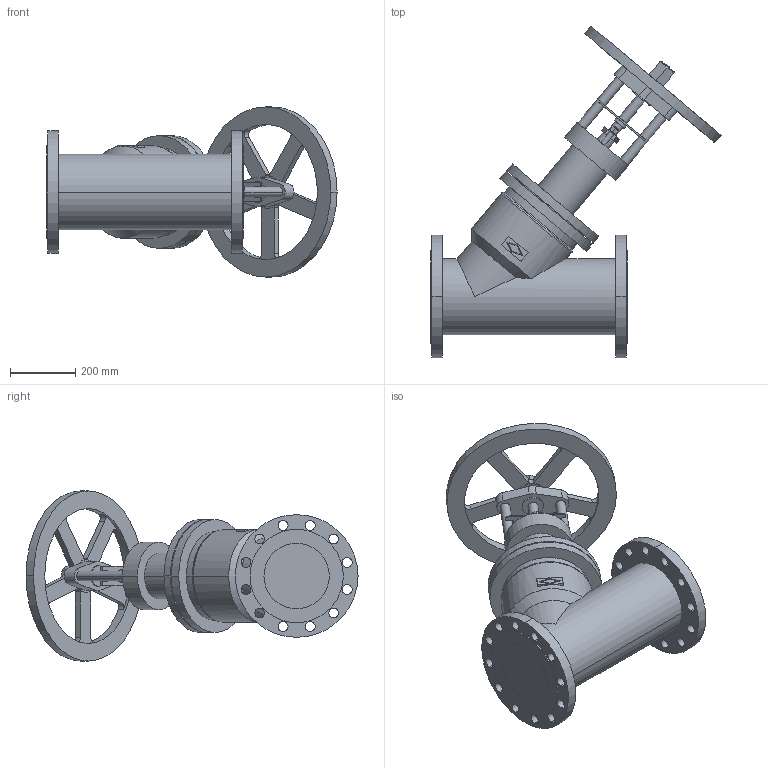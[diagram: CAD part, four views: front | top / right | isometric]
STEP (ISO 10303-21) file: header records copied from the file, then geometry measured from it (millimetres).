
FILE_DESCRIPTION(('Creo Elements/Direct Modeling STEP Export'),'2;1');
FILE_NAME('c000005034.stp','2012-09-21T12:26:34',(''),(''),'Creo Elements/Direct Modeling STEP processor for AP214 (Solid Model)','Creo Elements/Direct Modeling 17.0D 15-Jul-2011 (C) Parametric Technology GmbH','');
FILE_SCHEMA(('AUTOMOTIVE_DESIGN { 1 0 10303 214 1 1 1 1 }'));
Length unit declared in the file: millimetre
Products named in the file (1): 1
Bounding box: 887.08 x 1014.75 x 520 mm (x, y, z)
Volume: 55373401.4 mm3; surface area: 1907540.4 mm2
Topology: 1 solids, 1 shells, 264 faces, 698 edges, 463 vertices
Faces by surface type: cylinder 141, plane 116, cone 5, torus 2
Entity records: 10006 total; most frequent: ORIENTED_EDGE 1396, CARTESIAN_POINT 1377, DIRECTION 1294, EDGE_CURVE 698, AXIS2_PLACEMENT_3D 464, VERTEX_POINT 463, VECTOR 366, LINE 366
